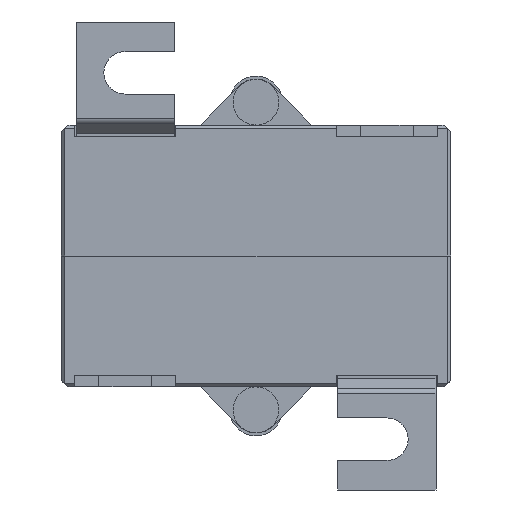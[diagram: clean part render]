
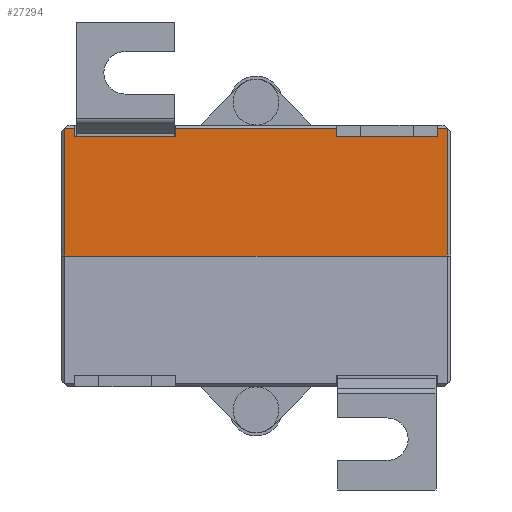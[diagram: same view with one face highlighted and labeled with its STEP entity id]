
A CAD part, front view. The second image highlights one B-rep face of the part: STEP entity #27294.
In plain terms, the highlighted planar face has unit normal (0, -1, 0).
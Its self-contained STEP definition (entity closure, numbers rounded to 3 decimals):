
#1512=PLANE('',#29142);
#2518=FACE_OUTER_BOUND('',#4033,.T.);
#4033=EDGE_LOOP('',(#19110,#19111,#19112,#19113,#19114,#19115,#19116,#19117,
#19118,#19119,#19120,#19121));
#6022=LINE('',#36804,#9033);
#6035=LINE('',#36830,#9046);
#6083=LINE('',#36962,#9094);
#6085=LINE('',#36966,#9096);
#6090=LINE('',#36976,#9101);
#6091=LINE('',#36978,#9102);
#6092=LINE('',#36980,#9103);
#6093=LINE('',#36982,#9104);
#6094=LINE('',#36983,#9105);
#6095=LINE('',#36985,#9106);
#6096=LINE('',#36987,#9107);
#6097=LINE('',#36988,#9108);
#9033=VECTOR('',#30785,10.);
#9046=VECTOR('',#30804,10.);
#9094=VECTOR('',#30892,10.);
#9096=VECTOR('',#30896,10.);
#9101=VECTOR('',#30903,10.);
#9102=VECTOR('',#30904,10.);
#9103=VECTOR('',#30905,10.);
#9104=VECTOR('',#30906,10.);
#9105=VECTOR('',#30907,10.);
#9106=VECTOR('',#30908,10.);
#9107=VECTOR('',#30909,10.);
#9108=VECTOR('',#30910,10.);
#12066=VERTEX_POINT('',#36801);
#12067=VERTEX_POINT('',#36803);
#12077=VERTEX_POINT('',#36829);
#12140=VERTEX_POINT('',#36959);
#12141=VERTEX_POINT('',#36961);
#12142=VERTEX_POINT('',#36965);
#12146=VERTEX_POINT('',#36975);
#12147=VERTEX_POINT('',#36977);
#12148=VERTEX_POINT('',#36979);
#12149=VERTEX_POINT('',#36981);
#12150=VERTEX_POINT('',#36984);
#12151=VERTEX_POINT('',#36986);
#14821=EDGE_CURVE('',#12066,#12067,#6022,.T.);
#14834=EDGE_CURVE('',#12067,#12077,#6035,.T.);
#14900=EDGE_CURVE('',#12140,#12141,#6083,.T.);
#14902=EDGE_CURVE('',#12142,#12141,#6085,.T.);
#14907=EDGE_CURVE('',#12146,#12066,#6090,.T.);
#14908=EDGE_CURVE('',#12147,#12146,#6091,.T.);
#14909=EDGE_CURVE('',#12148,#12147,#6092,.T.);
#14910=EDGE_CURVE('',#12148,#12149,#6093,.T.);
#14911=EDGE_CURVE('',#12149,#12142,#6094,.T.);
#14912=EDGE_CURVE('',#12140,#12150,#6095,.T.);
#14913=EDGE_CURVE('',#12150,#12151,#6096,.T.);
#14914=EDGE_CURVE('',#12151,#12077,#6097,.T.);
#19110=ORIENTED_EDGE('',*,*,#14821,.F.);
#19111=ORIENTED_EDGE('',*,*,#14907,.F.);
#19112=ORIENTED_EDGE('',*,*,#14908,.F.);
#19113=ORIENTED_EDGE('',*,*,#14909,.F.);
#19114=ORIENTED_EDGE('',*,*,#14910,.T.);
#19115=ORIENTED_EDGE('',*,*,#14911,.T.);
#19116=ORIENTED_EDGE('',*,*,#14902,.T.);
#19117=ORIENTED_EDGE('',*,*,#14900,.F.);
#19118=ORIENTED_EDGE('',*,*,#14912,.T.);
#19119=ORIENTED_EDGE('',*,*,#14913,.T.);
#19120=ORIENTED_EDGE('',*,*,#14914,.T.);
#19121=ORIENTED_EDGE('',*,*,#14834,.F.);
#27294=ADVANCED_FACE('',(#2518),#1512,.T.);
#29142=AXIS2_PLACEMENT_3D('',#36974,#30901,#30902);
#30785=DIRECTION('',(0.,0.,-1.));
#30804=DIRECTION('',(-1.,0.,0.));
#30892=DIRECTION('',(-1.,0.,0.));
#30896=DIRECTION('',(0.,0.,-1.));
#30901=DIRECTION('center_axis',(0.,-1.,0.));
#30902=DIRECTION('ref_axis',(1.,0.,0.));
#30903=DIRECTION('',(1.,0.,0.));
#30904=DIRECTION('',(0.,0.,1.));
#30905=DIRECTION('',(-1.,0.,0.));
#30906=DIRECTION('',(0.,0.,1.));
#30907=DIRECTION('',(1.,0.,0.));
#30908=DIRECTION('',(0.,0.,1.));
#30909=DIRECTION('',(1.,0.,0.));
#30910=DIRECTION('',(0.,0.,-1.));
#36801=CARTESIAN_POINT('',(29.25,0.,20.));
#36803=CARTESIAN_POINT('',(29.25,0.,0.5));
#36804=CARTESIAN_POINT('',(29.25,0.,0.));
#36829=CARTESIAN_POINT('',(27.7,0.,0.5));
#36830=CARTESIAN_POINT('',(-14.875,0.,0.5));
#36959=CARTESIAN_POINT('',(12.3,0.,0.5));
#36961=CARTESIAN_POINT('',(-12.3,0.,0.5));
#36962=CARTESIAN_POINT('',(-14.875,0.,0.5));
#36965=CARTESIAN_POINT('',(-12.3,0.,1.8));
#36966=CARTESIAN_POINT('',(-12.3,0.,0.));
#36974=CARTESIAN_POINT('Origin',(-29.75,0.,0.));
#36975=CARTESIAN_POINT('',(-29.25,0.,20.));
#36976=CARTESIAN_POINT('',(-29.75,0.,20.));
#36977=CARTESIAN_POINT('',(-29.25,0.,0.5));
#36978=CARTESIAN_POINT('',(-29.25,0.,0.));
#36979=CARTESIAN_POINT('',(-27.7,0.,0.5));
#36980=CARTESIAN_POINT('',(-14.875,0.,0.5));
#36981=CARTESIAN_POINT('',(-27.7,0.,1.8));
#36982=CARTESIAN_POINT('',(-27.7,0.,0.));
#36983=CARTESIAN_POINT('',(-24.875,0.,1.8));
#36984=CARTESIAN_POINT('',(12.3,0.,1.8));
#36985=CARTESIAN_POINT('',(12.3,0.,0.));
#36986=CARTESIAN_POINT('',(27.7,0.,1.8));
#36987=CARTESIAN_POINT('',(-4.875,0.,1.8));
#36988=CARTESIAN_POINT('',(27.7,0.,0.));
